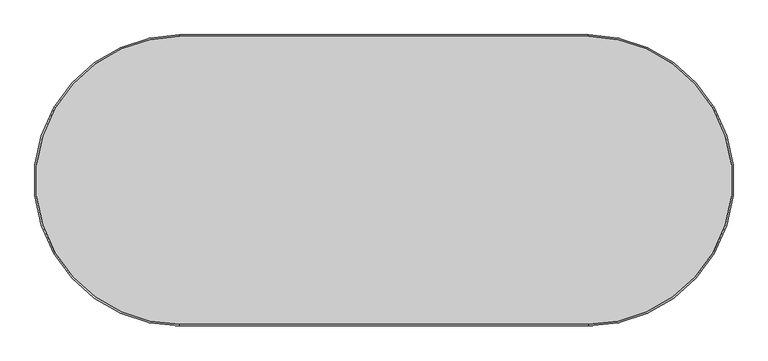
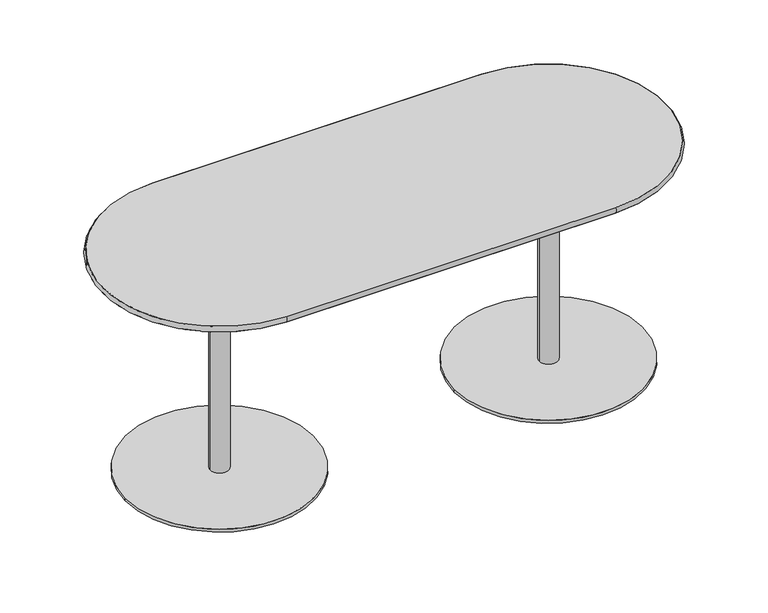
"""IFC4 building model written with IfcOpenShell, lengths in millimetres: furniture geometry, Steelcase Coalesse - Enea - Table - Double Base : Racetrack - 30H - Laminate."""

from ifc_helpers import new_model, si_unit, point, frame, frame_2d, origin, origin_with_axes, place, context, project, spatial, polyline, circle_curve, ellipse_curve, trimmed, segment, composite_curve, outline, extrude, source, transform, mapped, element, save
from ifc_brep_helpers import plane_surface, cylinder_surface, revolved_surface, advanced_brep


def furniture_86c448c0(model_context):
    return source(origin(), model_context, "Body", "SolidModel", [
        advanced_brep(
        [(-828.9851448, -914.5459525, 742.95), (-828.9851448, -914.5459525, 762.0), (237.7880276, -914.5459525, 762.0), (237.7880276, -914.5459525, 742.95), (237.7880276, -160.8897715, 742.95), (237.7880276, -160.8897715, 762.0), (-828.9851448, -160.8897715, 762.0), (-828.9851448, -160.8897715, 742.95)],
        [
            (0, 1),
            (1, 2),
            (2, 3),
            (3, 0),
            (1, 0, circle_curve(frame((-828.9851448, -905.1264226, 752.475), z_axis=(1.0, 0.0, 0.0), x_axis=(0.0, 1.0, 0.0)), 13.3960131)),
            (3, 2, circle_curve(frame((237.7880276, -905.1264226, 752.475), z_axis=(-1.0, 0.0, 0.0), x_axis=(0.0, 1.0, 0.0)), 13.3960131)),
            (4, 3, circle_curve(frame((237.7880276, -537.717862, 742.95), z_axis=(0.0, 0.0, -1.0), x_axis=(0.0, -1.0, 0.0)), 376.8280905)),
            (2, 5, circle_curve(frame((237.7880276, -537.717862, 762.0), z_axis=(0.0, 0.0, 1.0), x_axis=(0.0, -1.0, 0.0)), 376.8280905)),
            (5, 4),
            (4, 5, circle_curve(frame((237.7880276, -170.3093013, 752.475), z_axis=(1.0, 0.0, 0.0), x_axis=(0.0, -1.0, 0.0)), 13.3960131)),
            (5, 6),
            (6, 7),
            (7, 4),
            (7, 6, circle_curve(frame((-828.9851448, -170.3093013, 752.475), z_axis=(1.0, 0.0, 0.0), x_axis=(0.0, -1.0, 0.0)), 13.3960131)),
            (0, 7, circle_curve(frame((-828.9851448, -537.717862, 742.95), z_axis=(0.0, 0.0, -1.0), x_axis=(0.0, 1.0, 0.0)), 376.8280905)),
            (6, 1, circle_curve(frame((-828.9851448, -537.717862, 762.0), z_axis=(0.0, 0.0, 1.0), x_axis=(0.0, 1.0, 0.0)), 376.8280905)),
        ],
        [
            plane_surface(frame((-828.9851448, -914.5459525, 762.0), z_axis=(0.0, 1.0, 0.0), x_axis=(1.0, 0.0, 0.0))),
            cylinder_surface(frame((-828.9851448, -905.1264226, 752.475), z_axis=(-1.0, 0.0, 0.0), x_axis=(0.0, 1.0, 0.0)), 13.3960131),
            revolved_surface(polyline([(237.7880276, -914.5459524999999, 762.0), (237.7880276, -914.5459524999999, 742.95)]), (237.7880276, -537.717862, 0.0), (0.0, 0.0, 1.0)),
            revolved_surface(trimmed(ellipse_curve(frame((237.7880276, -905.1264226, 752.475), z_axis=(-1.0, 0.0, 0.0), x_axis=(0.0, 1.0, 0.0)), 13.3960131, 13.3960131), [point((237.7880276, -914.5459525, 742.95))], [point((237.7880276, -914.5459525, 762.0))], True, "CARTESIAN"), (237.7880276, -537.717862, 0.0), (0.0, 0.0, 1.0)),
            plane_surface(frame((237.7880276, -160.8897715, 762.0), z_axis=(0.0, -1.0, 0.0), x_axis=(-1.0, 0.0, 0.0))),
            cylinder_surface(frame((237.7880276, -170.3093013, 752.475), z_axis=(1.0, 0.0, 0.0), x_axis=(0.0, -1.0, 0.0)), 13.3960131),
            revolved_surface(polyline([(-828.9851448, -160.8897715, 762.0), (-828.9851448, -160.8897715, 742.95)]), (-828.9851448, -537.717862, 0.0), (0.0, 0.0, 1.0)),
            revolved_surface(trimmed(ellipse_curve(frame((-828.9851448, -170.3093013, 752.475), z_axis=(1.0, 0.0, 0.0), x_axis=(0.0, -1.0, 0.0)), 13.3960131, 13.3960131), [point((-828.9851448, -160.8897715, 742.95))], [point((-828.9851448, -160.8897715, 762.0))], True, "CARTESIAN"), (-828.9851448, -537.717862, 0.0), (0.0, 0.0, 1.0)),
        ],
        [
            (0, [[1, 2, 3, 4]]),
            (1, [[5, -4, 6, -2]]),
            (2, [[7, -3, 8, 9]]),
            (3, [[-8, -6, -7, 10]]),
            (4, [[-9, 11, 12, 13]]),
            (5, [[-10, -13, 14, -11]]),
            (6, [[15, -12, 16, -1]]),
            (7, [[-16, -14, -15, -5]]),
        ],
    ),
        extrude(outline(composite_curve([segment(trimmed(circle_curve(frame_2d((237.7880276, -537.717862)), 376.7002625), [point((237.7880276, -161.0175995))], [point((237.7880276, -914.4181244))], False, "CARTESIAN"), True, "CONTINUOUS"), segment(polyline([(237.7880276, -914.4181244), (-828.9851448, -914.4181244)]), True, "CONTINUOUS"), segment(trimmed(circle_curve(frame_2d((-828.9851448, -537.717862)), 376.7002625), [point((-828.9851448, -914.4181244))], [point((-828.9851448, -161.0175995))], False, "CARTESIAN"), True, "CONTINUOUS"), segment(polyline([(-828.9851448, -161.0175995), (237.7880276, -161.0175995)]), True, "CONTINUOUS")], self_intersect=False)), frame((0.0, 0.0, 742.95), z_axis=(0.0, 0.0, 1.0), x_axis=(1.0, 0.0, 0.0)), (0.0, 0.0, 1.0), 19.05),
        extrude(outline(composite_curve([segment(trimmed(circle_curve(frame_2d((-829.113029, -284.0746893)), 25.4), [point((-803.713029, -284.0746893))], [point((-854.513029, -284.0746893))], False, "CARTESIAN"), True, "CONTINUOUS"), segment(trimmed(circle_curve(frame_2d((-829.113029, -284.0746893)), 25.4), [point((-854.513029, -284.0746893))], [point((-803.713029, -284.0746893))], False, "CARTESIAN"), True, "CONTINUOUS")], self_intersect=False)), origin_with_axes(), (0.0, 0.0, 1.0), 6.35),
        extrude(outline(composite_curve([segment(trimmed(circle_curve(frame_2d((-1082.7563397, -537.3772238)), 25.4), [point((-1057.3563397, -537.3772238))], [point((-1108.1563397, -537.3772238))], False, "CARTESIAN"), True, "CONTINUOUS"), segment(trimmed(circle_curve(frame_2d((-1082.7563397, -537.3772238)), 25.4), [point((-1108.1563397, -537.3772238))], [point((-1057.3563397, -537.3772238))], False, "CARTESIAN"), True, "CONTINUOUS")], self_intersect=False)), origin_with_axes(), (0.0, 0.0, 1.0), 6.35),
        extrude(outline(composite_curve([segment(trimmed(circle_curve(frame_2d((-575.4697182, -537.3772238)), 25.4), [point((-550.0697182, -537.3772238))], [point((-600.8697182, -537.3772238))], False, "CARTESIAN"), True, "CONTINUOUS"), segment(trimmed(circle_curve(frame_2d((-575.4697182, -537.3772238)), 25.4), [point((-600.8697182, -537.3772238))], [point((-550.0697182, -537.3772238))], False, "CARTESIAN"), True, "CONTINUOUS")], self_intersect=False)), origin_with_axes(), (0.0, 0.0, 1.0), 6.35),
        extrude(outline(composite_curve([segment(trimmed(circle_curve(frame_2d((-829.113029, -790.6797584)), 25.4), [point((-803.713029, -790.6797584))], [point((-854.513029, -790.6797584))], False, "CARTESIAN"), True, "CONTINUOUS"), segment(trimmed(circle_curve(frame_2d((-829.113029, -790.6797584)), 25.4), [point((-854.513029, -790.6797584))], [point((-803.713029, -790.6797584))], False, "CARTESIAN"), True, "CONTINUOUS")], self_intersect=False)), origin_with_axes(), (0.0, 0.0, 1.0), 6.35),
        extrude(outline(composite_curve([segment(trimmed(circle_curve(frame_2d((-829.113029, -537.718)), 304.8), [point((-1133.913029, -537.718))], [point((-524.313029, -537.718))], False, "CARTESIAN"), True, "CONTINUOUS"), segment(trimmed(circle_curve(frame_2d((-829.113029, -537.718)), 304.8), [point((-524.313029, -537.718))], [point((-1133.913029, -537.718))], False, "CARTESIAN"), True, "CONTINUOUS")], self_intersect=False)), frame((0.0, 0.0, 6.35), z_axis=(0.0, 0.0, 1.0), x_axis=(1.0, 0.0, 0.0)), (0.0, 0.0, 1.0), 9.525),
        extrude(outline(composite_curve([segment(trimmed(circle_curve(frame_2d((-829.1133197, -537.7179273)), 30.0214725), [point((-859.1347922, -537.7179273))], [point((-799.0918471, -537.7179273))], False, "CARTESIAN"), True, "CONTINUOUS"), segment(trimmed(circle_curve(frame_2d((-829.1133197, -537.7179273)), 30.0214725), [point((-799.0918471, -537.7179273))], [point((-859.1347922, -537.7179273))], False, "CARTESIAN"), True, "CONTINUOUS")], self_intersect=False)), frame((0.0, 0.0, 15.875), z_axis=(0.0, 0.0, 1.0), x_axis=(1.0, 0.0, 0.0)), (0.0, 0.0, 1.0), 727.075),
        extrude(outline(composite_curve([segment(trimmed(circle_curve(frame_2d((237.686971, -284.0746893)), 25.4), [point((212.286971, -284.0746893))], [point((263.086971, -284.0746893))], False, "CARTESIAN"), True, "CONTINUOUS"), segment(trimmed(circle_curve(frame_2d((237.686971, -284.0746893)), 25.4), [point((263.086971, -284.0746893))], [point((212.286971, -284.0746893))], False, "CARTESIAN"), True, "CONTINUOUS")], self_intersect=False)), origin_with_axes(), (0.0, 0.0, 1.0), 6.35),
        extrude(outline(composite_curve([segment(trimmed(circle_curve(frame_2d((491.3302818, -537.3772238)), 25.4), [point((465.9302818, -537.3772238))], [point((516.7302818, -537.3772238))], False, "CARTESIAN"), True, "CONTINUOUS"), segment(trimmed(circle_curve(frame_2d((491.3302818, -537.3772238)), 25.4), [point((516.7302818, -537.3772238))], [point((465.9302818, -537.3772238))], False, "CARTESIAN"), True, "CONTINUOUS")], self_intersect=False)), origin_with_axes(), (0.0, 0.0, 1.0), 6.35),
        extrude(outline(composite_curve([segment(trimmed(circle_curve(frame_2d((-15.9563397, -537.3772238)), 25.4), [point((-41.3563397, -537.3772238))], [point((9.4436603, -537.3772238))], False, "CARTESIAN"), True, "CONTINUOUS"), segment(trimmed(circle_curve(frame_2d((-15.9563397, -537.3772238)), 25.4), [point((9.4436603, -537.3772238))], [point((-41.3563397, -537.3772238))], False, "CARTESIAN"), True, "CONTINUOUS")], self_intersect=False)), origin_with_axes(), (0.0, 0.0, 1.0), 6.35),
        extrude(outline(composite_curve([segment(trimmed(circle_curve(frame_2d((237.686971, -790.6797584)), 25.4), [point((212.286971, -790.6797584))], [point((263.086971, -790.6797584))], False, "CARTESIAN"), True, "CONTINUOUS"), segment(trimmed(circle_curve(frame_2d((237.686971, -790.6797584)), 25.4), [point((263.086971, -790.6797584))], [point((212.286971, -790.6797584))], False, "CARTESIAN"), True, "CONTINUOUS")], self_intersect=False)), origin_with_axes(), (0.0, 0.0, 1.0), 6.35),
        extrude(outline(composite_curve([segment(trimmed(circle_curve(frame_2d((237.686971, -537.718)), 304.8), [point((542.486971, -537.718))], [point((-67.113029, -537.718))], False, "CARTESIAN"), True, "CONTINUOUS"), segment(trimmed(circle_curve(frame_2d((237.686971, -537.718)), 304.8), [point((-67.113029, -537.718))], [point((542.486971, -537.718))], False, "CARTESIAN"), True, "CONTINUOUS")], self_intersect=False)), frame((0.0, 0.0, 6.35), z_axis=(0.0, 0.0, 1.0), x_axis=(1.0, 0.0, 0.0)), (0.0, 0.0, 1.0), 9.525),
        extrude(outline(composite_curve([segment(trimmed(circle_curve(frame_2d((237.6872617, -537.7179273)), 30.0214725), [point((267.7087342, -537.7179273))], [point((207.6657892, -537.7179273))], False, "CARTESIAN"), True, "CONTINUOUS"), segment(trimmed(circle_curve(frame_2d((237.6872617, -537.7179273)), 30.0214725), [point((207.6657892, -537.7179273))], [point((267.7087342, -537.7179273))], False, "CARTESIAN"), True, "CONTINUOUS")], self_intersect=False)), frame((0.0, 0.0, 15.875), z_axis=(0.0, 0.0, 1.0), x_axis=(1.0, 0.0, 0.0)), (0.0, 0.0, 1.0), 727.075),
    ])


if __name__ == "__main__":
    model = new_model("IFC4")
    model_context = context("Model", 3, world=origin())
    ifc_project = project(units=[si_unit("LENGTHUNIT", "METRE", prefix="MILLI")], contexts=[model_context])
    site = spatial("IfcSite", under=ifc_project)
    building = spatial("IfcBuilding", under=site)
    placement = place(None, origin())
    furniture_shape = furniture_86c448c0(model_context)
    element("IfcFurniture", 1, ObjectType="Steelcase Coalesse - Enea - Table - Double Base : Racetrack - 30H - Laminate", at=placement, inside=building, context=model_context, shape_type="MappedRepresentation", body=[
        mapped(furniture_shape, transform((0.0, 0.0, 0.0), x_axis=(1.0, 0.0, 0.0), y_axis=(0.0, 1.0, 0.0), z_axis=(0.0, 0.0, 1.0))),
    ])
    save(model, "model.ifc")
